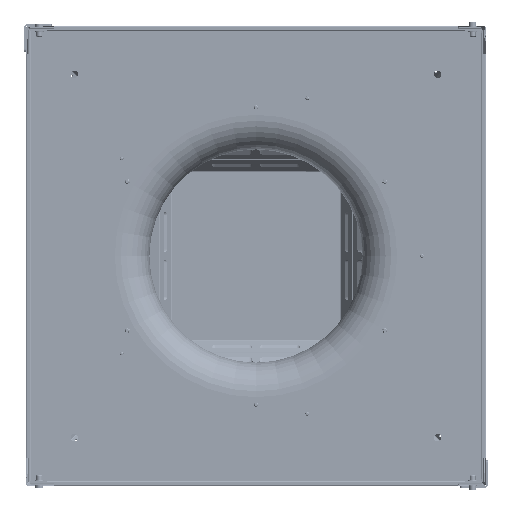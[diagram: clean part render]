
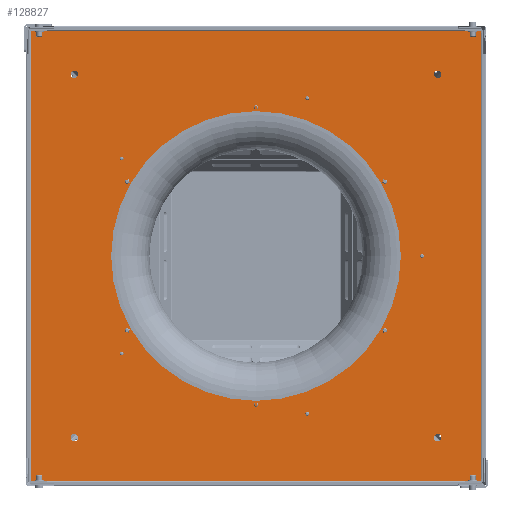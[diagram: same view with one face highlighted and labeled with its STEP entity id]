
A CAD part, front view. The second image highlights one B-rep face of the part: STEP entity #128827.
In plain terms, the highlighted planar face has unit normal (0, -1, 0).
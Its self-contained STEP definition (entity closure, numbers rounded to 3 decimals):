
#3812 = VECTOR ( 'NONE', #116669, 1000. ) ;
#11386 = DIRECTION ( 'NONE',  ( 0., 1., 0. ) ) ;
#13946 = LINE ( 'NONE', #375213, #3812 ) ;
#15614 = VERTEX_POINT ( 'NONE', #365894 ) ;
#15779 = CIRCLE ( 'NONE', #362934, 5.5 ) ;
#19206 = CARTESIAN_POINT ( 'NONE',  ( -196.106, -2., -142.479 ) ) ;
#20092 = CARTESIAN_POINT ( 'NONE',  ( 262., -2., 267.5 ) ) ;
#23388 = EDGE_CURVE ( 'NONE', #324562, #324562, #97626, .T. ) ;
#27246 = DIRECTION ( 'NONE',  ( 1., 0., 0. ) ) ;
#28267 = CARTESIAN_POINT ( 'NONE',  ( -197.805, -2., -143.713 ) ) ;
#29674 = VERTEX_POINT ( 'NONE', #19206 ) ;
#32759 = AXIS2_PLACEMENT_3D ( 'NONE', #300658, #106164, #333364 ) ;
#33579 = EDGE_CURVE ( 'NONE', #100803, #100803, #117028, .T. ) ;
#34233 = EDGE_CURVE ( 'NONE', #74268, #255874, #97731, .T. ) ;
#36829 = CARTESIAN_POINT ( 'NONE',  ( 242.4, -2., 0. ) ) ;
#47137 = EDGE_LOOP ( 'NONE', ( #170569 ) ) ;
#49014 = ORIENTED_EDGE ( 'NONE', *, *, #178342, .F. ) ;
#52759 = ORIENTED_EDGE ( 'NONE', *, *, #134214, .T. ) ;
#54179 = CARTESIAN_POINT ( 'NONE',  ( 267.5, -2., -267.5 ) ) ;
#54337 = EDGE_LOOP ( 'NONE', ( #104102 ) ) ;
#66563 = DIRECTION ( 'NONE',  ( 0.809, 0., 0.588 ) ) ;
#67609 = DIRECTION ( 'NONE',  ( 1., 0., 0. ) ) ;
#69383 = FACE_BOUND ( 'NONE', #47137, .T. ) ;
#72227 = CARTESIAN_POINT ( 'NONE',  ( 335., -2., -335. ) ) ;
#74268 = VERTEX_POINT ( 'NONE', #255570 ) ;
#80326 = DIRECTION ( 'NONE',  ( 0., 1., 0. ) ) ;
#83684 = ORIENTED_EDGE ( 'NONE', *, *, #33579, .T. ) ;
#86838 = DIRECTION ( 'NONE',  ( -1., 0., 0. ) ) ;
#87520 = VECTOR ( 'NONE', #122987, 1000. ) ;
#91508 = CARTESIAN_POINT ( 'NONE',  ( -267.5, -2., 267.5 ) ) ;
#96129 = CARTESIAN_POINT ( 'NONE',  ( 213.3, -2., 0. ) ) ;
#97626 = CIRCLE ( 'NONE', #325217, 213.3 ) ;
#97731 = LINE ( 'NONE', #188262, #87520 ) ;
#98649 = EDGE_CURVE ( 'NONE', #314383, #314383, #337411, .T. ) ;
#99461 = EDGE_CURVE ( 'NONE', #390696, #390696, #184169, .T. ) ;
#100803 = VERTEX_POINT ( 'NONE', #326133 ) ;
#101837 = EDGE_CURVE ( 'NONE', #280132, #15614, #256060, .T. ) ;
#104102 = ORIENTED_EDGE ( 'NONE', *, *, #98649, .T. ) ;
#104947 = DIRECTION ( 'NONE',  ( 0., -1., 0. ) ) ;
#106164 = DIRECTION ( 'NONE',  ( 0., 1., 0. ) ) ;
#113861 = ORIENTED_EDGE ( 'NONE', *, *, #408596, .T. ) ;
#116669 = DIRECTION ( 'NONE',  ( 0., 0., 1. ) ) ;
#117028 = CIRCLE ( 'NONE', #177011, 2.1 ) ;
#119651 = EDGE_LOOP ( 'NONE', ( #272392 ) ) ;
#120446 = AXIS2_PLACEMENT_3D ( 'NONE', #72227, #104947, #332170 ) ;
#122987 = DIRECTION ( 'NONE',  ( -1., 0., 0. ) ) ;
#124156 = DIRECTION ( 'NONE',  ( -1., 0., 0. ) ) ;
#127594 = EDGE_LOOP ( 'NONE', ( #164305 ) ) ;
#128827 = ADVANCED_FACE ( 'NONE', ( #242141, #155792, #196511, #349002, #165952, #328607, #415020, #69383, #404822, #318397, #231963 ), #266843, .T. ) ;
#131767 = CARTESIAN_POINT ( 'NONE',  ( 267.5, -2., 267.5 ) ) ;
#131801 = AXIS2_PLACEMENT_3D ( 'NONE', #131767, #359015, #164436 ) ;
#132532 = EDGE_LOOP ( 'NONE', ( #113861 ) ) ;
#134214 = EDGE_CURVE ( 'NONE', #29674, #29674, #407588, .T. ) ;
#135918 = VERTEX_POINT ( 'NONE', #351339 ) ;
#139715 = DIRECTION ( 'NONE',  ( 0., 1., 0. ) ) ;
#142734 = CARTESIAN_POINT ( 'NONE',  ( -273., -2., -267.5 ) ) ;
#148396 = AXIS2_PLACEMENT_3D ( 'NONE', #28267, #255323, #66563 ) ;
#150958 = AXIS2_PLACEMENT_3D ( 'NONE', #205807, #11386, #238477 ) ;
#155792 = FACE_BOUND ( 'NONE', #391733, .T. ) ;
#160785 = EDGE_CURVE ( 'NONE', #15614, #74268, #405328, .T. ) ;
#164147 = CARTESIAN_POINT ( 'NONE',  ( -332.8, -2., 331.3 ) ) ;
#164305 = ORIENTED_EDGE ( 'NONE', *, *, #175963, .T. ) ;
#164436 = DIRECTION ( 'NONE',  ( -1., 0., 0. ) ) ;
#165952 = FACE_BOUND ( 'NONE', #132532, .T. ) ;
#169621 = VECTOR ( 'NONE', #67609, 1000. ) ;
#170569 = ORIENTED_EDGE ( 'NONE', *, *, #310235, .T. ) ;
#172081 = EDGE_CURVE ( 'NONE', #135918, #135918, #233535, .T. ) ;
#175963 = EDGE_CURVE ( 'NONE', #201889, #201889, #233764, .T. ) ;
#177011 = AXIS2_PLACEMENT_3D ( 'NONE', #334260, #139715, #366935 ) ;
#177769 = CARTESIAN_POINT ( 'NONE',  ( 75.555, -2., 232.533 ) ) ;
#178342 = EDGE_CURVE ( 'NONE', #255874, #280132, #13946, .T. ) ;
#178866 = ORIENTED_EDGE ( 'NONE', *, *, #172081, .T. ) ;
#180493 = EDGE_LOOP ( 'NONE', ( #83684 ) ) ;
#184169 = CIRCLE ( 'NONE', #360567, 2.1 ) ;
#188262 = CARTESIAN_POINT ( 'NONE',  ( 332.8, -2., -331.3 ) ) ;
#196511 = FACE_BOUND ( 'NONE', #314796, .T. ) ;
#200011 = CARTESIAN_POINT ( 'NONE',  ( 262., -2., -267.5 ) ) ;
#201889 = VERTEX_POINT ( 'NONE', #287441 ) ;
#205807 = CARTESIAN_POINT ( 'NONE',  ( -267.5, -2., -267.5 ) ) ;
#207993 = CARTESIAN_POINT ( 'NONE',  ( -196.106, -2., 142.479 ) ) ;
#210419 = DIRECTION ( 'NONE',  ( -0.309, 0., -0.951 ) ) ;
#221624 = DIRECTION ( 'NONE',  ( 0., -1., 0. ) ) ;
#225841 = ORIENTED_EDGE ( 'NONE', *, *, #160785, .F. ) ;
#231963 = FACE_OUTER_BOUND ( 'NONE', #273858, .T. ) ;
#233535 = CIRCLE ( 'NONE', #392360, 2.1 ) ;
#233764 = CIRCLE ( 'NONE', #392958, 5.5 ) ;
#234460 = ORIENTED_EDGE ( 'NONE', *, *, #34233, .F. ) ;
#238477 = DIRECTION ( 'NONE',  ( -1., 0., 0. ) ) ;
#240670 = VERTEX_POINT ( 'NONE', #200011 ) ;
#241457 = VERTEX_POINT ( 'NONE', #20092 ) ;
#241980 = CIRCLE ( 'NONE', #32759, 2.1 ) ;
#242141 = FACE_BOUND ( 'NONE', #180493, .T. ) ;
#255323 = DIRECTION ( 'NONE',  ( 0., 1., 0. ) ) ;
#255570 = CARTESIAN_POINT ( 'NONE',  ( 331.3, -2., -331.3 ) ) ;
#255874 = VERTEX_POINT ( 'NONE', #280039 ) ;
#256060 = LINE ( 'NONE', #164147, #169621 ) ;
#261090 = VERTEX_POINT ( 'NONE', #36829 ) ;
#266843 = PLANE ( 'NONE',  #120446 ) ;
#272392 = ORIENTED_EDGE ( 'NONE', *, *, #23388, .F. ) ;
#273858 = EDGE_LOOP ( 'NONE', ( #225841, #274715, #49014, #234460 ) ) ;
#274715 = ORIENTED_EDGE ( 'NONE', *, *, #101837, .F. ) ;
#274958 = CARTESIAN_POINT ( 'NONE',  ( -197.805, -2., 143.713 ) ) ;
#279188 = ORIENTED_EDGE ( 'NONE', *, *, #415182, .T. ) ;
#280039 = CARTESIAN_POINT ( 'NONE',  ( -331.3, -2., -331.3 ) ) ;
#280132 = VERTEX_POINT ( 'NONE', #322186 ) ;
#281520 = DIRECTION ( 'NONE',  ( 0., 1., 0. ) ) ;
#284954 = ORIENTED_EDGE ( 'NONE', *, *, #99461, .T. ) ;
#287441 = CARTESIAN_POINT ( 'NONE',  ( -273., -2., 267.5 ) ) ;
#294645 = EDGE_LOOP ( 'NONE', ( #279188 ) ) ;
#300658 = CARTESIAN_POINT ( 'NONE',  ( 244.5, -2., 0. ) ) ;
#306201 = EDGE_LOOP ( 'NONE', ( #178866 ) ) ;
#307511 = DIRECTION ( 'NONE',  ( 0.809, 0., -0.588 ) ) ;
#310235 = EDGE_CURVE ( 'NONE', #241457, #241457, #341813, .T. ) ;
#314383 = VERTEX_POINT ( 'NONE', #142734 ) ;
#314796 = EDGE_LOOP ( 'NONE', ( #284954 ) ) ;
#318397 = FACE_BOUND ( 'NONE', #119651, .T. ) ;
#318695 = DIRECTION ( 'NONE',  ( 0., 1., 0. ) ) ;
#322186 = CARTESIAN_POINT ( 'NONE',  ( -331.3, -2., 331.3 ) ) ;
#324562 = VERTEX_POINT ( 'NONE', #96129 ) ;
#324648 = CARTESIAN_POINT ( 'NONE',  ( 331.3, -2., 332.8 ) ) ;
#325217 = AXIS2_PLACEMENT_3D ( 'NONE', #416272, #221624, #27246 ) ;
#326133 = CARTESIAN_POINT ( 'NONE',  ( 74.906, -2., -230.536 ) ) ;
#328607 = FACE_BOUND ( 'NONE', #54337, .T. ) ;
#332170 = DIRECTION ( 'NONE',  ( 1., 0., 0. ) ) ;
#333364 = DIRECTION ( 'NONE',  ( -1., 0., 0. ) ) ;
#334260 = CARTESIAN_POINT ( 'NONE',  ( 75.555, -2., -232.533 ) ) ;
#337411 = CIRCLE ( 'NONE', #150958, 5.5 ) ;
#341813 = CIRCLE ( 'NONE', #131801, 5.5 ) ;
#349002 = FACE_BOUND ( 'NONE', #306201, .T. ) ;
#351339 = CARTESIAN_POINT ( 'NONE',  ( 74.906, -2., 230.536 ) ) ;
#359015 = DIRECTION ( 'NONE',  ( 0., 1., 0. ) ) ;
#360567 = AXIS2_PLACEMENT_3D ( 'NONE', #274958, #80326, #307511 ) ;
#362934 = AXIS2_PLACEMENT_3D ( 'NONE', #54179, #281520, #86838 ) ;
#365894 = CARTESIAN_POINT ( 'NONE',  ( 331.3, -2., 331.3 ) ) ;
#366935 = DIRECTION ( 'NONE',  ( -0.309, 0., 0.951 ) ) ;
#375213 = CARTESIAN_POINT ( 'NONE',  ( -331.3, -2., -332.8 ) ) ;
#390696 = VERTEX_POINT ( 'NONE', #207993 ) ;
#391733 = EDGE_LOOP ( 'NONE', ( #52759 ) ) ;
#392360 = AXIS2_PLACEMENT_3D ( 'NONE', #177769, #405119, #210419 ) ;
#392958 = AXIS2_PLACEMENT_3D ( 'NONE', #91508, #318695, #124156 ) ;
#404822 = FACE_BOUND ( 'NONE', #294645, .T. ) ;
#405119 = DIRECTION ( 'NONE',  ( 0., 1., 0. ) ) ;
#405328 = LINE ( 'NONE', #324648, #415498 ) ;
#407588 = CIRCLE ( 'NONE', #148396, 2.1 ) ;
#408596 = EDGE_CURVE ( 'NONE', #261090, #261090, #241980, .T. ) ;
#415020 = FACE_BOUND ( 'NONE', #127594, .T. ) ;
#415182 = EDGE_CURVE ( 'NONE', #240670, #240670, #15779, .T. ) ;
#415498 = VECTOR ( 'NONE', #421193, 1000. ) ;
#416272 = CARTESIAN_POINT ( 'NONE',  ( 0., -2., 0. ) ) ;
#421193 = DIRECTION ( 'NONE',  ( 0., 0., -1. ) ) ;
